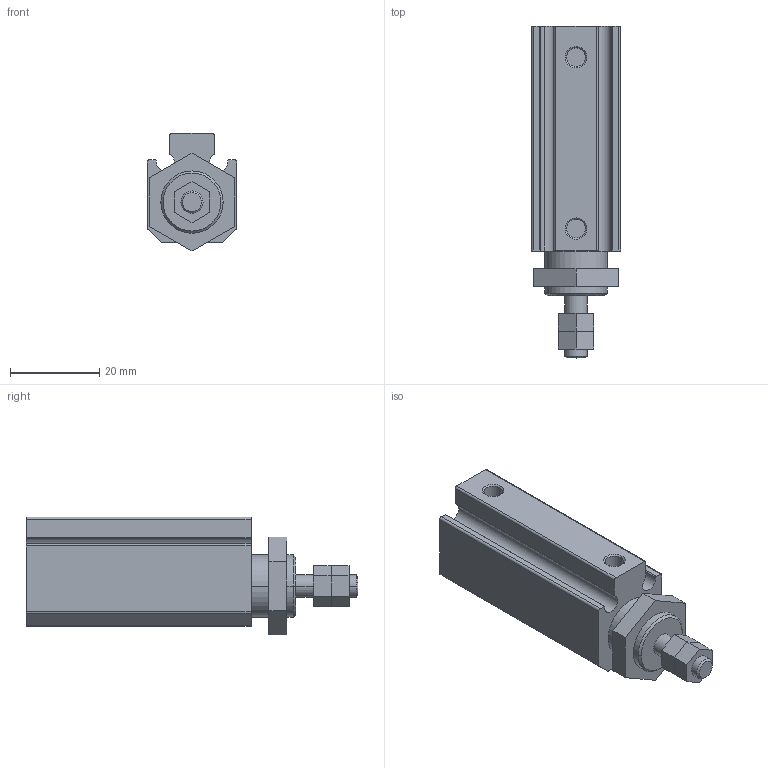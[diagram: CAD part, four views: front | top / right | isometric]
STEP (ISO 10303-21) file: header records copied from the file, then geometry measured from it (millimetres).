
FILE_DESCRIPTION((''),'2;1');
FILE_NAME('D:\CHANTO-3D-已完成\2010\第三大類\第三大類-3D\AAP-3D\AAP16X25.stp','2010-09-18T08:42:22',('Administrator'),(''),'Autodesk Inventor 8','Autodesk Inventor 8','');
FILE_SCHEMA(('AUTOMOTIVE_DESIGN { 1 0 10303 214 1 1 1 1 }'));
Length unit declared in the file: millimetre
Products named in the file (1): AAP16X25
Bounding box: 20 x 74.5 x 26.47 mm (x, y, z)
Volume: 22867.7 mm3; surface area: 6974.1 mm2
Topology: 1 solids, 1 shells, 78 faces, 190 edges, 124 vertices
Faces by surface type: plane 40, cylinder 30, cone 8
Entity records: 2321 total; most frequent: DIRECTION 416, CARTESIAN_POINT 393, ORIENTED_EDGE 380, EDGE_CURVE 190, AXIS2_PLACEMENT_3D 147, VERTEX_POINT 124, VECTOR 122, LINE 122
